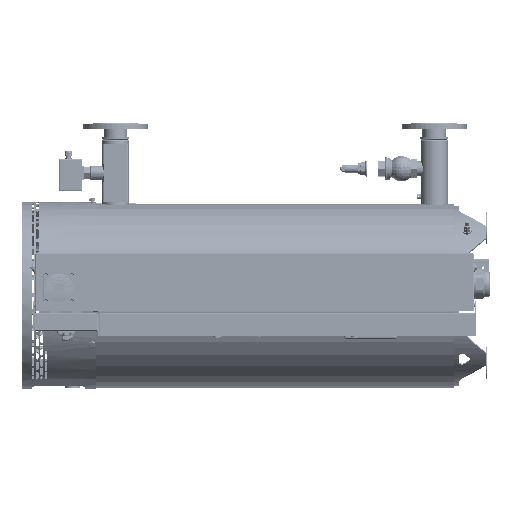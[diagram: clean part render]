
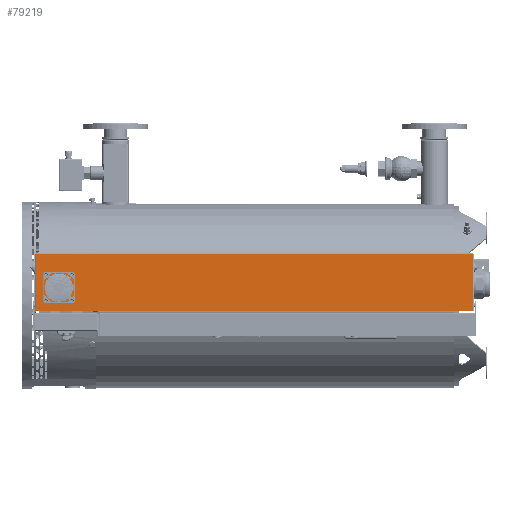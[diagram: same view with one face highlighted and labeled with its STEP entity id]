
A CAD part, left-side view. The second image highlights one B-rep face of the part: STEP entity #79219.
In plain terms, the highlighted planar face has unit normal (-1, 0, 0).
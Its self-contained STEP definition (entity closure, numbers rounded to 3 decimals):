
#1820=FACE_BOUND('',#10422,.T.);
#1821=FACE_BOUND('',#10423,.T.);
#1822=FACE_BOUND('',#10424,.T.);
#1823=FACE_BOUND('',#10425,.T.);
#1824=FACE_BOUND('',#10426,.T.);
#3266=PLANE('',#83973);
#6545=FACE_OUTER_BOUND('',#10421,.T.);
#10421=EDGE_LOOP('',(#54386,#54387,#54388,#54389));
#10422=EDGE_LOOP('',(#54390,#54391));
#10423=EDGE_LOOP('',(#54392,#54393));
#10424=EDGE_LOOP('',(#54394));
#10425=EDGE_LOOP('',(#54395,#54396));
#10426=EDGE_LOOP('',(#54397));
#15743=LINE('',#116570,#22147);
#15744=LINE('',#116572,#22148);
#15745=LINE('',#116574,#22149);
#15746=LINE('',#116575,#22150);
#22147=VECTOR('',#93244,10.);
#22148=VECTOR('',#93245,10.);
#22149=VECTOR('',#93246,10.);
#22150=VECTOR('',#93247,10.);
#28470=CIRCLE('',#83974,39.);
#28471=CIRCLE('',#83975,39.);
#28472=CIRCLE('',#83976,2.25);
#28473=CIRCLE('',#83977,2.25);
#28474=CIRCLE('',#83978,2.25);
#28475=CIRCLE('',#83979,2.25);
#28476=CIRCLE('',#83980,2.25);
#28477=CIRCLE('',#83981,2.25);
#33371=VERTEX_POINT('',#116568);
#33372=VERTEX_POINT('',#116569);
#33373=VERTEX_POINT('',#116571);
#33374=VERTEX_POINT('',#116573);
#33375=VERTEX_POINT('',#116576);
#33376=VERTEX_POINT('',#116577);
#33377=VERTEX_POINT('',#116580);
#33378=VERTEX_POINT('',#116581);
#33379=VERTEX_POINT('',#116584);
#33380=VERTEX_POINT('',#116586);
#33381=VERTEX_POINT('',#116587);
#33382=VERTEX_POINT('',#116590);
#41949=EDGE_CURVE('',#33371,#33372,#15743,.T.);
#41950=EDGE_CURVE('',#33372,#33373,#15744,.T.);
#41951=EDGE_CURVE('',#33373,#33374,#15745,.T.);
#41952=EDGE_CURVE('',#33374,#33371,#15746,.T.);
#41953=EDGE_CURVE('',#33375,#33376,#28470,.T.);
#41954=EDGE_CURVE('',#33376,#33375,#28471,.T.);
#41955=EDGE_CURVE('',#33377,#33378,#28472,.T.);
#41956=EDGE_CURVE('',#33378,#33377,#28473,.T.);
#41957=EDGE_CURVE('',#33379,#33379,#28474,.T.);
#41958=EDGE_CURVE('',#33380,#33381,#28475,.T.);
#41959=EDGE_CURVE('',#33381,#33380,#28476,.T.);
#41960=EDGE_CURVE('',#33382,#33382,#28477,.T.);
#54386=ORIENTED_EDGE('',*,*,#41949,.T.);
#54387=ORIENTED_EDGE('',*,*,#41950,.T.);
#54388=ORIENTED_EDGE('',*,*,#41951,.T.);
#54389=ORIENTED_EDGE('',*,*,#41952,.T.);
#54390=ORIENTED_EDGE('',*,*,#41953,.T.);
#54391=ORIENTED_EDGE('',*,*,#41954,.T.);
#54392=ORIENTED_EDGE('',*,*,#41955,.T.);
#54393=ORIENTED_EDGE('',*,*,#41956,.T.);
#54394=ORIENTED_EDGE('',*,*,#41957,.T.);
#54395=ORIENTED_EDGE('',*,*,#41958,.T.);
#54396=ORIENTED_EDGE('',*,*,#41959,.T.);
#54397=ORIENTED_EDGE('',*,*,#41960,.T.);
#79219=ADVANCED_FACE('',(#6545,#1820,#1821,#1822,#1823,#1824),#3266,.T.);
#83973=AXIS2_PLACEMENT_3D('',#116567,#93242,#93243);
#83974=AXIS2_PLACEMENT_3D('',#116578,#93248,#93249);
#83975=AXIS2_PLACEMENT_3D('',#116579,#93250,#93251);
#83976=AXIS2_PLACEMENT_3D('',#116582,#93252,#93253);
#83977=AXIS2_PLACEMENT_3D('',#116583,#93254,#93255);
#83978=AXIS2_PLACEMENT_3D('',#116585,#93256,#93257);
#83979=AXIS2_PLACEMENT_3D('',#116588,#93258,#93259);
#83980=AXIS2_PLACEMENT_3D('',#116589,#93260,#93261);
#83981=AXIS2_PLACEMENT_3D('',#116591,#93262,#93263);
#93242=DIRECTION('center_axis',(-1.,0.,0.));
#93243=DIRECTION('ref_axis',(0.,-1.,0.));
#93244=DIRECTION('',(0.,-1.,0.));
#93245=DIRECTION('',(0.,0.,1.));
#93246=DIRECTION('',(0.,1.,0.));
#93247=DIRECTION('',(0.,0.,-1.));
#93248=DIRECTION('center_axis',(1.,0.,0.));
#93249=DIRECTION('ref_axis',(0.,-1.,0.));
#93250=DIRECTION('center_axis',(1.,0.,0.));
#93251=DIRECTION('ref_axis',(0.,-1.,0.));
#93252=DIRECTION('center_axis',(1.,0.,0.));
#93253=DIRECTION('ref_axis',(0.,-1.,0.));
#93254=DIRECTION('center_axis',(1.,0.,0.));
#93255=DIRECTION('ref_axis',(0.,-1.,0.));
#93256=DIRECTION('center_axis',(1.,0.,0.));
#93257=DIRECTION('ref_axis',(0.,-1.,0.));
#93258=DIRECTION('center_axis',(1.,0.,0.));
#93259=DIRECTION('ref_axis',(0.,-1.,0.));
#93260=DIRECTION('center_axis',(1.,0.,0.));
#93261=DIRECTION('ref_axis',(0.,-1.,0.));
#93262=DIRECTION('center_axis',(1.,0.,0.));
#93263=DIRECTION('ref_axis',(0.,-1.,0.));
#116567=CARTESIAN_POINT('Origin',(-284.5,5.453,-79.369));
#116568=CARTESIAN_POINT('',(-284.5,611.353,-159.));
#116569=CARTESIAN_POINT('',(-284.5,-600.447,-159.));
#116570=CARTESIAN_POINT('',(-284.5,308.403,-159.));
#116571=CARTESIAN_POINT('',(-284.5,-600.447,-1.));
#116572=CARTESIAN_POINT('',(-284.5,-600.447,-119.685));
#116573=CARTESIAN_POINT('',(-284.5,611.353,-1.));
#116574=CARTESIAN_POINT('',(-284.5,5.453,-1.));
#116575=CARTESIAN_POINT('',(-284.5,611.353,-40.185));
#116576=CARTESIAN_POINT('',(-284.5,508.353,-95.));
#116577=CARTESIAN_POINT('',(-284.5,586.353,-95.));
#116578=CARTESIAN_POINT('Origin',(-284.5,547.353,-95.));
#116579=CARTESIAN_POINT('Origin',(-284.5,547.353,-95.));
#116580=CARTESIAN_POINT('',(-284.5,509.353,-130.75));
#116581=CARTESIAN_POINT('',(-284.5,513.853,-130.75));
#116582=CARTESIAN_POINT('Origin',(-284.5,511.603,-130.75));
#116583=CARTESIAN_POINT('Origin',(-284.5,511.603,-130.75));
#116584=CARTESIAN_POINT('',(-284.5,580.853,-130.75));
#116585=CARTESIAN_POINT('Origin',(-284.5,583.103,-130.75));
#116586=CARTESIAN_POINT('',(-284.5,509.353,-59.25));
#116587=CARTESIAN_POINT('',(-284.5,513.853,-59.25));
#116588=CARTESIAN_POINT('Origin',(-284.5,511.603,-59.25));
#116589=CARTESIAN_POINT('Origin',(-284.5,511.603,-59.25));
#116590=CARTESIAN_POINT('',(-284.5,580.853,-59.25));
#116591=CARTESIAN_POINT('Origin',(-284.5,583.103,-59.25));
